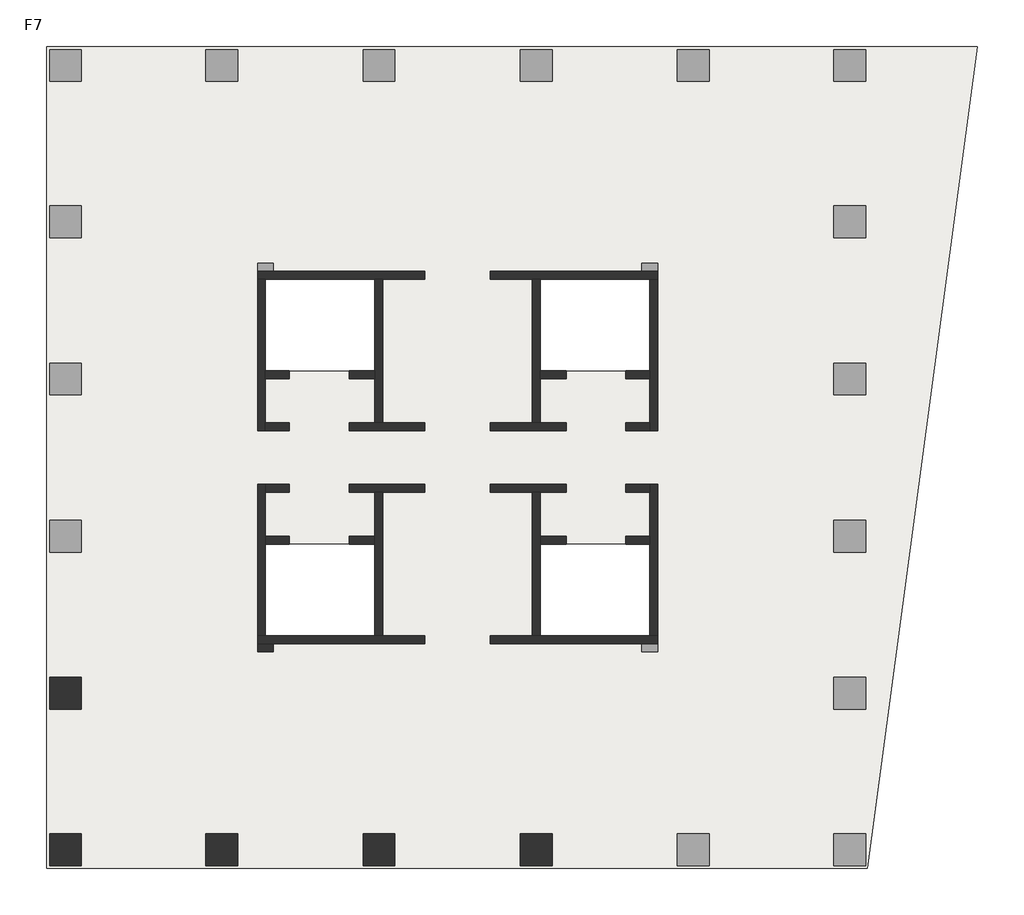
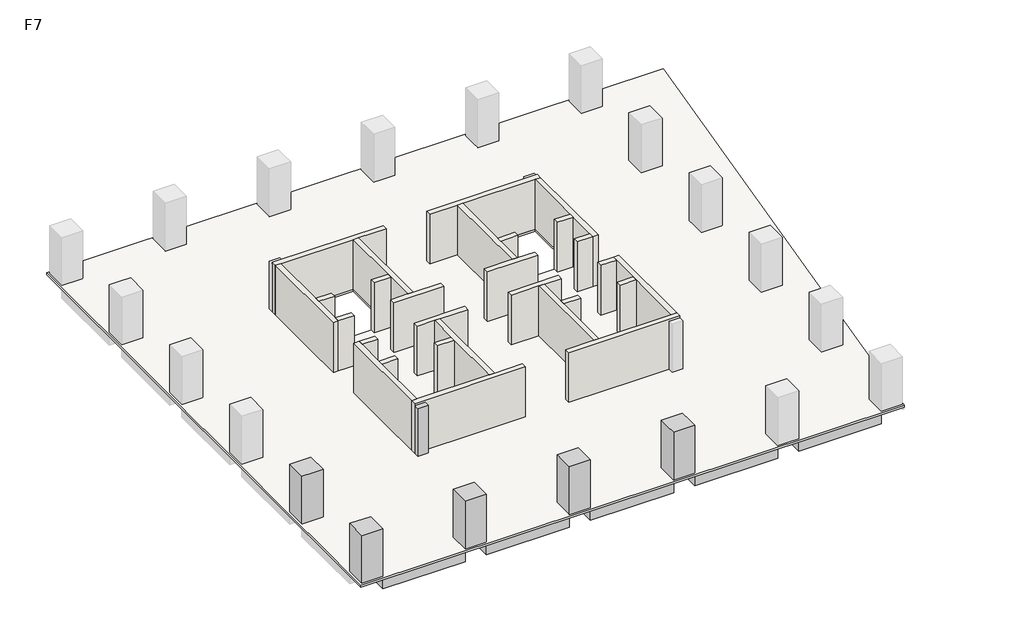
# One storey, part 1 of 2: 28 walls, 6 columns, 5 beams, 1 slab.
"""IFC4 building model written with IfcOpenShell, lengths in millimetres."""

from ifc_helpers import new_model, si_unit, frame, origin, place, context, project, spatial, polyline, outline, extrude, faceted_brep, element, save

model = new_model("IFC4")

# Units and contexts
model_context = context("Model", 3, world=origin())
ifc_project = project(units=[si_unit("LENGTHUNIT", "METRE", prefix="MILLI")], contexts=[model_context])

# Site, building, storey
site = spatial("IfcSite", under=ifc_project)
building = spatial("IfcBuilding", under=site)
storey = spatial("IfcBuildingStorey", under=building, Name="F7", Elevation=28000.0)

# Beams
placement = place(None, origin())
element("IfcBeam", 1, ObjectType="混凝土 - 矩形梁 : KL(5)-800x1000", at=placement, inside=storey, context=model_context, shape_type="SweptSolid", body=[
    extrude(outline(polyline([(-12472.6742169, -13948.9501342), (-12472.6742169, -13148.9501342), (-6222.6742169, -13148.9501342), (-6222.6742169, -13948.9501342), (-12472.6742169, -13948.9501342)])), frame((0.0, 0.0, 27000.0), z_axis=(0.0, 0.0, 1.0), x_axis=(1.0, 0.0, 0.0)), (0.0, 0.0, 1.0), 840.0),
    extrude(outline(polyline([(25327.3257831, -13148.9501342), (25327.3257831, -13948.9501342), (19077.3257831, -13948.9501342), (19077.3257831, -13148.9501342), (25327.3257831, -13148.9501342)])), frame((0.0, 0.0, 27000.0), z_axis=(0.0, 0.0, 1.0), x_axis=(1.0, 0.0, 0.0)), (0.0, 0.0, 1.0), 840.0),
    extrude(outline(polyline([(-4622.6742169, -13948.9501342), (-4622.6742169, -13148.9501342), (1677.3257831, -13148.9501342), (1677.3257831, -13948.9501342), (-4622.6742169, -13948.9501342)])), frame((0.0, 0.0, 27000.0), z_axis=(0.0, 0.0, 1.0), x_axis=(1.0, 0.0, 0.0)), (0.0, 0.0, 1.0), 840.0),
    extrude(outline(polyline([(3277.3257831, -13948.9501342), (3277.3257831, -13148.9501342), (9577.3257831, -13148.9501342), (9577.3257831, -13948.9501342), (3277.3257831, -13948.9501342)])), frame((0.0, 0.0, 27000.0), z_axis=(0.0, 0.0, 1.0), x_axis=(1.0, 0.0, 0.0)), (0.0, 0.0, 1.0), 840.0),
    extrude(outline(polyline([(11177.3257831, -13948.9501342), (11177.3257831, -13148.9501342), (17477.3257831, -13148.9501342), (17477.3257831, -13948.9501342), (11177.3257831, -13948.9501342)])), frame((0.0, 0.0, 27000.0), z_axis=(0.0, 0.0, 1.0), x_axis=(1.0, 0.0, 0.0)), (0.0, 0.0, 1.0), 840.0),
])
element("IfcBeam", 2, ObjectType="混凝土 - 矩形梁 : L1-800x500", at=placement, inside=storey, context=model_context, shape_type="Brep", body=[
    faceted_brep([(-12472.6742169, -5512.1353397, 27500.0), (-3746.9473979, -3341.556529, 27500.0), (-3173.6696907, -3198.9501342, 27500.0), (-3173.6696907, -3198.9501342, 27840.0), (-3746.9473979, -3341.556529, 27840.0), (-12472.6742169, -5512.1353397, 27840.0), (-3622.6742169, -3198.9501342, 27500.0), (-12472.6742169, -4687.7549784, 27500.0), (-3622.6742169, -2486.2624411, 27500.0), (-3622.6742169, -2798.9501342, 27500.0), (-12472.6742169, -4687.7549784, 27840.0), (-3622.6742169, -2486.2624411, 27840.0), (-3622.6742169, -3198.9501342, 27840.0)], [[[0, 1, 2, 3, 4, 5]], [[6, 2, 1, 0, 7, 8, 9]], [[8, 7, 10, 11]], [[2, 6, 12, 3]], [[9, 8, 11, 12, 6]], [[7, 0, 5, 10]], [[5, 4, 3, 12, 11, 10]]]),
])
element("IfcBeam", 3, ObjectType="混凝土 - 矩形梁 : L1-800x500", at=placement, inside=storey, context=model_context, shape_type="SweptSolid", body=[
    extrude(outline(polyline([(-3746.9473979, -3341.556529), (-3173.6696907, -3198.9501342), (-2898.7618154, -3198.9501342), (-4843.6893517, -12348.9501342), (-5661.5624638, -12348.9501342), (-3746.9473979, -3341.556529)])), frame((0.0, 0.0, 27500.0), z_axis=(0.0, 0.0, 1.0), x_axis=(1.0, 0.0, 0.0)), (0.0, 0.0, 1.0), 340.0),
])
element("IfcBeam", 4, ObjectType="混凝土 - 矩形梁 : L1-800x500", at=placement, inside=storey, context=model_context, shape_type="SweptSolid", body=[
    extrude(outline(polyline([(2877.3257831, -12348.9501342), (2077.3257831, -12348.9501342), (2077.3257831, -2798.9501342), (2877.3257831, -2798.9501342), (2877.3257831, -12348.9501342)])), frame((0.0, 0.0, 27500.0), z_axis=(0.0, 0.0, 1.0), x_axis=(1.0, 0.0, 0.0)), (0.0, 0.0, 1.0), 340.0),
])
element("IfcBeam", 5, ObjectType="混凝土 - 矩形梁 : L1-800x500", at=placement, inside=storey, context=model_context, shape_type="SweptSolid", body=[
    extrude(outline(polyline([(10777.3257831, -12348.9501342), (9977.3257831, -12348.9501342), (9977.3257831, -2798.9501342), (10777.3257831, -2798.9501342), (10777.3257831, -12348.9501342)])), frame((0.0, 0.0, 27500.0), z_axis=(0.0, 0.0, 1.0), x_axis=(1.0, 0.0, 0.0)), (0.0, 0.0, 1.0), 340.0),
])

# Columns
element("IfcColumn", 6, ObjectType="混凝土 - 矩形 - 柱 : Z1-1600x1600", at=placement, inside=storey, context=model_context, shape_type="Brep", body=[
    faceted_brep([(-12472.6742169, -4498.9501342, 28000.0), (-12472.6742169, -6098.9501342, 28000.0), (-14072.6742169, -6098.9501342, 28000.0), (-14072.6742169, -4498.9501342, 28000.0), (-12472.6742169, -4498.9501342, 31840.0), (-12472.6742169, -6098.9501342, 31840.0), (-13272.6742169, -6098.9501342, 31840.0), (-14072.6742169, -6098.9501342, 31840.0), (-14072.6742169, -6098.9501342, 31000.0), (-14072.6742169, -4498.9501342, 31840.0), (-14072.6742169, -4498.9501342, 31000.0), (-13272.6742169, -4498.9501342, 31840.0)], [[[0, 1, 2, 3]], [[1, 0, 4, 5]], [[2, 1, 5, 6, 7, 8]], [[3, 2, 8, 7, 9, 10]], [[0, 3, 10, 9, 11, 4]], [[5, 4, 11, 9, 7, 6]]]),
])
element("IfcColumn", 7, ObjectType="混凝土 - 矩形 - 柱 : Z1-1600x1600", at=placement, inside=storey, context=model_context, shape_type="SweptSolid", body=[
    extrude(outline(polyline([(-12472.6742169, -12348.9501342), (-12472.6742169, -13948.9501342), (-14072.6742169, -13948.9501342), (-14072.6742169, -12348.9501342), (-12472.6742169, -12348.9501342)])), frame((0.0, 0.0, 28000.0), z_axis=(0.0, 0.0, 1.0), x_axis=(1.0, 0.0, 0.0)), (0.0, 0.0, 1.0), 3840.0),
])
element("IfcColumn", 8, ObjectType="混凝土 - 矩形 - 柱 : Z1-1600x1600", at=placement, inside=storey, context=model_context, shape_type="Brep", body=[
    faceted_brep([(-4622.6742169, -12348.9501342, 28000.0), (-4622.6742169, -13948.9501342, 28000.0), (-6222.6742169, -13948.9501342, 28000.0), (-6222.6742169, -12348.9501342, 28000.0), (-4622.6742169, -12348.9501342, 31840.0), (-4622.6742169, -13148.9501342, 31840.0), (-4622.6742169, -13948.9501342, 31840.0), (-4622.6742169, -13948.9501342, 31000.0), (-6222.6742169, -13948.9501342, 31840.0), (-6222.6742169, -13948.9501342, 31000.0), (-6222.6742169, -13148.9501342, 31840.0), (-6222.6742169, -12348.9501342, 31840.0)], [[[0, 1, 2, 3]], [[1, 0, 4, 5, 6, 7]], [[2, 1, 7, 6, 8, 9]], [[3, 2, 9, 8, 10, 11]], [[0, 3, 11, 4]], [[6, 5, 4, 11, 10, 8]]]),
])
element("IfcColumn", 9, ObjectType="混凝土 - 矩形 - 柱 : Z1-1600x1600", at=placement, inside=storey, context=model_context, shape_type="Brep", body=[
    faceted_brep([(3277.3257831, -12348.9501342, 28000.0), (3277.3257831, -13948.9501342, 28000.0), (1677.3257831, -13948.9501342, 28000.0), (1677.3257831, -12348.9501342, 28000.0), (3277.3257831, -12348.9501342, 31840.0), (3277.3257831, -13148.9501342, 31840.0), (3277.3257831, -13948.9501342, 31840.0), (3277.3257831, -13948.9501342, 31000.0), (1677.3257831, -13948.9501342, 31840.0), (1677.3257831, -13948.9501342, 31000.0), (1677.3257831, -13148.9501342, 31840.0), (1677.3257831, -12348.9501342, 31840.0)], [[[0, 1, 2, 3]], [[1, 0, 4, 5, 6, 7]], [[2, 1, 7, 6, 8, 9]], [[3, 2, 9, 8, 10, 11]], [[0, 3, 11, 4]], [[6, 5, 4, 11, 10, 8]]]),
])
element("IfcColumn", 10, ObjectType="混凝土 - 矩形 - 柱 : Z1-1600x1600", at=placement, inside=storey, context=model_context, shape_type="Brep", body=[
    faceted_brep([(11177.3257831, -12348.9501342, 28000.0), (11177.3257831, -13948.9501342, 28000.0), (9577.3257831, -13948.9501342, 28000.0), (9577.3257831, -12348.9501342, 28000.0), (11177.3257831, -12348.9501342, 31840.0), (11177.3257831, -13148.9501342, 31840.0), (11177.3257831, -13948.9501342, 31840.0), (11177.3257831, -13948.9501342, 31000.0), (9577.3257831, -13948.9501342, 31840.0), (9577.3257831, -13948.9501342, 31000.0), (9577.3257831, -13148.9501342, 31840.0), (9577.3257831, -12348.9501342, 31840.0)], [[[0, 1, 2, 3]], [[1, 0, 4, 5, 6, 7]], [[2, 1, 7, 6, 8, 9]], [[3, 2, 9, 8, 10, 11]], [[0, 3, 11, 4]], [[6, 5, 4, 11, 10, 8]]]),
])
element("IfcColumn", 11, ObjectType="混凝土 - 矩形 - 柱 : Z2-800x800", at=placement, inside=storey, context=model_context, shape_type="SweptSolid", body=[
    extrude(outline(polyline([(-2822.6742169, -3198.9501342), (-3622.6742169, -3198.9501342), (-3622.6742169, -2798.9501342), (-2822.6742169, -2798.9501342), (-2822.6742169, -3198.9501342)])), frame((0.0, 0.0, 28000.0), z_axis=(0.0, 0.0, 1.0), x_axis=(1.0, 0.0, 0.0)), (0.0, 0.0, 1.0), 3840.0),
])

# Slab
element("IfcSlab", 12, ObjectType="LB-160", at=placement, inside=storey, context=model_context, shape_type="Brep", body=[
    faceted_brep([(32549.4477343, 27201.0498658, 27840.0), (32422.0087099, 26251.0498658, 27840.0), (27029.3257831, -13948.9501342, 27840.0), (27011.0393465, -14085.2672073, 27840.0), (-14222.6742169, -14085.2672073, 27840.0), (-14222.6742169, 27201.0498658, 27840.0), (2277.3257831, 15501.0498658, 27840.0), (-3222.6742169, 15501.0498658, 27840.0), (-3222.6742169, 10901.0498658, 27840.0), (2277.3257831, 10901.0498658, 27840.0), (2277.3257831, 2201.0498658, 27840.0), (-3222.6742169, 2201.0498658, 27840.0), (-3222.6742169, -2398.9501342, 27840.0), (2277.3257831, -2398.9501342, 27840.0), (16077.3257831, 2201.0498658, 27840.0), (10577.3257831, 2201.0498658, 27840.0), (10577.3257831, -2398.9501342, 27840.0), (16077.3257831, -2398.9501342, 27840.0), (16077.3257831, 15501.0498658, 27840.0), (10577.3257831, 15501.0498658, 27840.0), (10577.3257831, 10901.0498658, 27840.0), (16077.3257831, 10901.0498658, 27840.0), (32549.4477343, 27201.0498658, 28000.0), (-14222.6742169, 27201.0498658, 28000.0), (-14222.6742169, -14085.2672073, 28000.0), (27011.0393465, -14085.2672073, 28000.0), (2277.3257831, 15501.0498658, 28000.0), (2277.3257831, 10901.0498658, 28000.0), (-3222.6742169, 10901.0498658, 28000.0), (-3222.6742169, 15501.0498658, 28000.0), (2277.3257831, 2201.0498658, 28000.0), (2277.3257831, -2398.9501342, 28000.0), (-3222.6742169, -2398.9501342, 28000.0), (-3222.6742169, 2201.0498658, 28000.0), (16077.3257831, 2201.0498658, 28000.0), (16077.3257831, -2398.9501342, 28000.0), (10577.3257831, -2398.9501342, 28000.0), (10577.3257831, 2201.0498658, 28000.0), (16077.3257831, 15501.0498658, 28000.0), (16077.3257831, 10901.0498658, 28000.0), (10577.3257831, 10901.0498658, 28000.0), (10577.3257831, 15501.0498658, 28000.0)], [[[0, 1, 2, 3, 4, 5], [6, 7, 8, 9], [10, 11, 12, 13], [14, 15, 16, 17], [18, 19, 20, 21]], [[22, 23, 24, 25], [26, 27, 28, 29], [30, 31, 32, 33], [34, 35, 36, 37], [38, 39, 40, 41]], [[3, 2, 1, 0, 22, 25]], [[4, 3, 25, 24]], [[5, 4, 24, 23]], [[0, 5, 23, 22]], [[7, 6, 26, 29]], [[8, 7, 29, 28]], [[9, 8, 28, 27]], [[6, 9, 27, 26]], [[11, 10, 30, 33]], [[12, 11, 33, 32]], [[13, 12, 32, 31]], [[10, 13, 31, 30]], [[15, 14, 34, 37]], [[16, 15, 37, 36]], [[17, 16, 36, 35]], [[14, 17, 35, 34]], [[19, 18, 38, 41]], [[20, 19, 41, 40]], [[21, 20, 40, 39]], [[18, 21, 39, 38]]]),
])

# Walls
element("IfcWall", 13, ObjectType="剪力墙-400", at=placement, inside=storey, context=model_context, shape_type="Brep", body=[
    faceted_brep([(-3622.6742169, 15501.0498658, 28000.0), (-3222.6742169, 15501.0498658, 28000.0), (2277.3257831, 15501.0498658, 28000.0), (2677.3257831, 15501.0498658, 28000.0), (4777.3257831, 15501.0498658, 28000.0), (4777.3257831, 15501.0498658, 32000.0), (2677.3257831, 15501.0498658, 32000.0), (2277.3257831, 15501.0498658, 32000.0), (-3222.6742169, 15501.0498658, 32000.0), (-3622.6742169, 15501.0498658, 32000.0), (-3622.6742169, 15901.0498658, 28000.0), (-3622.6742169, 15901.0498658, 31840.0), (-3622.6742169, 15901.0498658, 32000.0), (4777.3257831, 15901.0498658, 32000.0), (4777.3257831, 15901.0498658, 28000.0), (-2822.6742169, 15901.0498658, 28000.0)], [[[0, 1, 2, 3, 4, 5, 6, 7, 8, 9]], [[10, 11, 12, 13, 14, 15]], [[4, 3, 2, 1, 0, 10, 15, 14]], [[5, 4, 14, 13]], [[9, 8, 7, 6, 5, 13, 12]], [[0, 9, 12, 11, 10]]]),
])
element("IfcWall", 14, ObjectType="剪力墙-400", at=placement, inside=storey, context=model_context, shape_type="Brep", body=[
    faceted_brep([(2277.3257831, 15501.0498658, 28000.0), (2277.3257831, 10901.0498658, 28000.0), (2277.3257831, 10501.0498658, 28000.0), (2277.3257831, 8301.0498658, 28000.0), (2277.3257831, 8301.0498658, 32000.0), (2277.3257831, 10501.0498658, 32000.0), (2277.3257831, 10901.0498658, 32000.0), (2277.3257831, 15501.0498658, 32000.0), (2677.3257831, 15501.0498658, 28000.0), (2677.3257831, 15501.0498658, 32000.0), (2677.3257831, 8301.0498658, 32000.0), (2677.3257831, 8301.0498658, 28000.0)], [[[0, 1, 2, 3, 4, 5, 6, 7]], [[8, 9, 10, 11]], [[3, 2, 1, 0, 8, 11]], [[7, 6, 5, 4, 10, 9]], [[0, 7, 9, 8]], [[4, 3, 11, 10]]]),
])
element("IfcWall", 15, ObjectType="剪力墙-400", at=placement, inside=storey, context=model_context, shape_type="Brep", body=[
    faceted_brep([(-3622.6742169, 15501.0498658, 28000.0), (-3622.6742169, 7901.0498658, 28000.0), (-3622.6742169, 7901.0498658, 32000.0), (-3622.6742169, 15501.0498658, 32000.0), (-3222.6742169, 15501.0498658, 28000.0), (-3222.6742169, 15501.0498658, 32000.0), (-3222.6742169, 10901.0498658, 32000.0), (-3222.6742169, 10501.0498658, 32000.0), (-3222.6742169, 8301.0498658, 32000.0), (-3222.6742169, 7901.0498658, 32000.0), (-3222.6742169, 7901.0498658, 28000.0), (-3222.6742169, 8301.0498658, 28000.0), (-3222.6742169, 10501.0498658, 28000.0), (-3222.6742169, 10901.0498658, 28000.0)], [[[0, 1, 2, 3]], [[4, 5, 6, 7, 8, 9, 10, 11, 12, 13]], [[1, 0, 4, 13, 12, 11, 10]], [[3, 2, 9, 8, 7, 6, 5]], [[0, 3, 5, 4]], [[2, 1, 10, 9]]]),
])
element("IfcWall", 16, ObjectType="剪力墙-400", at=placement, inside=storey, context=model_context, shape_type="SweptSolid", body=[
    extrude(outline(polyline([(-2022.6742169, 7901.0498658), (-3222.6742169, 7901.0498658), (-3222.6742169, 8301.0498658), (-2022.6742169, 8301.0498658), (-2022.6742169, 7901.0498658)])), frame((0.0, 0.0, 28000.0), z_axis=(0.0, 0.0, 1.0), x_axis=(1.0, 0.0, 0.0)), (0.0, 0.0, 1.0), 4000.0),
])
element("IfcWall", 17, ObjectType="剪力墙-400", at=placement, inside=storey, context=model_context, shape_type="Brep", body=[
    faceted_brep([(977.3257831, 7901.0498658, 28000.0), (4777.3257831, 7901.0498658, 28000.0), (4777.3257831, 7901.0498658, 32000.0), (977.3257831, 7901.0498658, 32000.0), (977.3257831, 8301.0498658, 28000.0), (977.3257831, 8301.0498658, 32000.0), (2277.3257831, 8301.0498658, 32000.0), (2677.3257831, 8301.0498658, 32000.0), (4777.3257831, 8301.0498658, 32000.0), (4777.3257831, 8301.0498658, 28000.0), (2677.3257831, 8301.0498658, 28000.0), (2277.3257831, 8301.0498658, 28000.0)], [[[0, 1, 2, 3]], [[4, 5, 6, 7, 8, 9, 10, 11]], [[1, 0, 4, 11, 10, 9]], [[2, 1, 9, 8]], [[3, 2, 8, 7, 6, 5]], [[0, 3, 5, 4]]]),
])
element("IfcWall", 18, ObjectType="剪力墙-400", at=placement, inside=storey, context=model_context, shape_type="SweptSolid", body=[
    extrude(outline(polyline([(-2022.6742169, 10501.0498658), (-3222.6742169, 10501.0498658), (-3222.6742169, 10901.0498658), (-2022.6742169, 10901.0498658), (-2022.6742169, 10501.0498658)])), frame((0.0, 0.0, 28000.0), z_axis=(0.0, 0.0, 1.0), x_axis=(1.0, 0.0, 0.0)), (0.0, 0.0, 1.0), 4000.0),
])
element("IfcWall", 19, ObjectType="剪力墙-400", at=placement, inside=storey, context=model_context, shape_type="SweptSolid", body=[
    extrude(outline(polyline([(2277.3257831, 10501.0498658), (977.3257831, 10501.0498658), (977.3257831, 10901.0498658), (2277.3257831, 10901.0498658), (2277.3257831, 10501.0498658)])), frame((0.0, 0.0, 28000.0), z_axis=(0.0, 0.0, 1.0), x_axis=(1.0, 0.0, 0.0)), (0.0, 0.0, 1.0), 4000.0),
])
element("IfcWall", 20, ObjectType="剪力墙-400", at=placement, inside=storey, context=model_context, shape_type="Brep", body=[
    faceted_brep([(16477.3257831, 15901.0498658, 28000.0), (15677.3257831, 15901.0498658, 28000.0), (8077.3257831, 15901.0498658, 28000.0), (8077.3257831, 15901.0498658, 32000.0), (16477.3257831, 15901.0498658, 32000.0), (16477.3257831, 15901.0498658, 31840.0), (16477.3257831, 15501.0498658, 28000.0), (16477.3257831, 15501.0498658, 32000.0), (16077.3257831, 15501.0498658, 32000.0), (10577.3257831, 15501.0498658, 32000.0), (10177.3257831, 15501.0498658, 32000.0), (8077.3257831, 15501.0498658, 32000.0), (8077.3257831, 15501.0498658, 28000.0), (10177.3257831, 15501.0498658, 28000.0), (10577.3257831, 15501.0498658, 28000.0), (16077.3257831, 15501.0498658, 28000.0)], [[[0, 1, 2, 3, 4, 5]], [[6, 7, 8, 9, 10, 11, 12, 13, 14, 15]], [[2, 1, 0, 6, 15, 14, 13, 12]], [[3, 2, 12, 11]], [[4, 3, 11, 10, 9, 8, 7]], [[0, 5, 4, 7, 6]]]),
])
element("IfcWall", 21, ObjectType="剪力墙-400", at=placement, inside=storey, context=model_context, shape_type="Brep", body=[
    faceted_brep([(10177.3257831, 15501.0498658, 28000.0), (10177.3257831, 8301.0498658, 28000.0), (10177.3257831, 8301.0498658, 32000.0), (10177.3257831, 15501.0498658, 32000.0), (10577.3257831, 15501.0498658, 28000.0), (10577.3257831, 15501.0498658, 32000.0), (10577.3257831, 10901.0498658, 32000.0), (10577.3257831, 10501.0498658, 32000.0), (10577.3257831, 8301.0498658, 32000.0), (10577.3257831, 8301.0498658, 28000.0), (10577.3257831, 10501.0498658, 28000.0), (10577.3257831, 10901.0498658, 28000.0)], [[[0, 1, 2, 3]], [[4, 5, 6, 7, 8, 9, 10, 11]], [[1, 0, 4, 11, 10, 9]], [[3, 2, 8, 7, 6, 5]], [[0, 3, 5, 4]], [[2, 1, 9, 8]]]),
])
element("IfcWall", 22, ObjectType="剪力墙-400", at=placement, inside=storey, context=model_context, shape_type="Brep", body=[
    faceted_brep([(16077.3257831, 15501.0498658, 28000.0), (16077.3257831, 10901.0498658, 28000.0), (16077.3257831, 10501.0498658, 28000.0), (16077.3257831, 8301.0498658, 28000.0), (16077.3257831, 7901.0498658, 28000.0), (16077.3257831, 7901.0498658, 32000.0), (16077.3257831, 8301.0498658, 32000.0), (16077.3257831, 10501.0498658, 32000.0), (16077.3257831, 10901.0498658, 32000.0), (16077.3257831, 15501.0498658, 32000.0), (16477.3257831, 15501.0498658, 28000.0), (16477.3257831, 15501.0498658, 32000.0), (16477.3257831, 7901.0498658, 32000.0), (16477.3257831, 7901.0498658, 28000.0)], [[[0, 1, 2, 3, 4, 5, 6, 7, 8, 9]], [[10, 11, 12, 13]], [[4, 3, 2, 1, 0, 10, 13]], [[9, 8, 7, 6, 5, 12, 11]], [[0, 9, 11, 10]], [[5, 4, 13, 12]]]),
])
element("IfcWall", 23, ObjectType="剪力墙-400", at=placement, inside=storey, context=model_context, shape_type="SweptSolid", body=[
    extrude(outline(polyline([(14877.3257831, 8301.0498658), (16077.3257831, 8301.0498658), (16077.3257831, 7901.0498658), (14877.3257831, 7901.0498658), (14877.3257831, 8301.0498658)])), frame((0.0, 0.0, 28000.0), z_axis=(0.0, 0.0, 1.0), x_axis=(1.0, 0.0, 0.0)), (0.0, 0.0, 1.0), 4000.0),
])
element("IfcWall", 24, ObjectType="剪力墙-400", at=placement, inside=storey, context=model_context, shape_type="Brep", body=[
    faceted_brep([(11877.3257831, 8301.0498658, 28000.0), (10577.3257831, 8301.0498658, 28000.0), (10177.3257831, 8301.0498658, 28000.0), (8077.3257831, 8301.0498658, 28000.0), (8077.3257831, 8301.0498658, 32000.0), (10177.3257831, 8301.0498658, 32000.0), (10577.3257831, 8301.0498658, 32000.0), (11877.3257831, 8301.0498658, 32000.0), (11877.3257831, 7901.0498658, 28000.0), (11877.3257831, 7901.0498658, 32000.0), (8077.3257831, 7901.0498658, 32000.0), (8077.3257831, 7901.0498658, 28000.0)], [[[0, 1, 2, 3, 4, 5, 6, 7]], [[8, 9, 10, 11]], [[3, 2, 1, 0, 8, 11]], [[4, 3, 11, 10]], [[7, 6, 5, 4, 10, 9]], [[0, 7, 9, 8]]]),
])
element("IfcWall", 25, ObjectType="剪力墙-400", at=placement, inside=storey, context=model_context, shape_type="SweptSolid", body=[
    extrude(outline(polyline([(14877.3257831, 10901.0498658), (16077.3257831, 10901.0498658), (16077.3257831, 10501.0498658), (14877.3257831, 10501.0498658), (14877.3257831, 10901.0498658)])), frame((0.0, 0.0, 28000.0), z_axis=(0.0, 0.0, 1.0), x_axis=(1.0, 0.0, 0.0)), (0.0, 0.0, 1.0), 4000.0),
])
element("IfcWall", 26, ObjectType="剪力墙-400", at=placement, inside=storey, context=model_context, shape_type="SweptSolid", body=[
    extrude(outline(polyline([(10577.3257831, 10901.0498658), (11877.3257831, 10901.0498658), (11877.3257831, 10501.0498658), (10577.3257831, 10501.0498658), (10577.3257831, 10901.0498658)])), frame((0.0, 0.0, 28000.0), z_axis=(0.0, 0.0, 1.0), x_axis=(1.0, 0.0, 0.0)), (0.0, 0.0, 1.0), 4000.0),
])
element("IfcWall", 27, ObjectType="剪力墙-400", at=placement, inside=storey, context=model_context, shape_type="Brep", body=[
    faceted_brep([(-3622.6742169, -2798.9501342, 28000.0), (-2822.6742169, -2798.9501342, 28000.0), (4777.3257831, -2798.9501342, 28000.0), (4777.3257831, -2798.9501342, 32000.0), (-3622.6742169, -2798.9501342, 32000.0), (-3622.6742169, -2798.9501342, 31840.0), (-3622.6742169, -2398.9501342, 28000.0), (-3622.6742169, -2398.9501342, 32000.0), (-3222.6742169, -2398.9501342, 32000.0), (2277.3257831, -2398.9501342, 32000.0), (2677.3257831, -2398.9501342, 32000.0), (4777.3257831, -2398.9501342, 32000.0), (4777.3257831, -2398.9501342, 28000.0), (2677.3257831, -2398.9501342, 28000.0), (2277.3257831, -2398.9501342, 28000.0), (-3222.6742169, -2398.9501342, 28000.0)], [[[0, 1, 2, 3, 4, 5]], [[6, 7, 8, 9, 10, 11, 12, 13, 14, 15]], [[2, 1, 0, 6, 15, 14, 13, 12]], [[3, 2, 12, 11]], [[4, 3, 11, 10, 9, 8, 7]], [[0, 5, 4, 7, 6]]]),
])
element("IfcWall", 28, ObjectType="剪力墙-400", at=placement, inside=storey, context=model_context, shape_type="Brep", body=[
    faceted_brep([(2677.3257831, -2398.9501342, 28000.0), (2677.3257831, 4801.0498658, 28000.0), (2677.3257831, 4801.0498658, 32000.0), (2677.3257831, -2398.9501342, 32000.0), (2277.3257831, -2398.9501342, 28000.0), (2277.3257831, -2398.9501342, 32000.0), (2277.3257831, 2201.0498658, 32000.0), (2277.3257831, 2601.0498658, 32000.0), (2277.3257831, 4801.0498658, 32000.0), (2277.3257831, 4801.0498658, 28000.0), (2277.3257831, 2601.0498658, 28000.0), (2277.3257831, 2201.0498658, 28000.0)], [[[0, 1, 2, 3]], [[4, 5, 6, 7, 8, 9, 10, 11]], [[1, 0, 4, 11, 10, 9]], [[3, 2, 8, 7, 6, 5]], [[0, 3, 5, 4]], [[2, 1, 9, 8]]]),
])
element("IfcWall", 29, ObjectType="剪力墙-400", at=placement, inside=storey, context=model_context, shape_type="Brep", body=[
    faceted_brep([(-3222.6742169, -2398.9501342, 28000.0), (-3222.6742169, 2201.0498658, 28000.0), (-3222.6742169, 2601.0498658, 28000.0), (-3222.6742169, 4801.0498658, 28000.0), (-3222.6742169, 5201.0498658, 28000.0), (-3222.6742169, 5201.0498658, 32000.0), (-3222.6742169, 4801.0498658, 32000.0), (-3222.6742169, 2601.0498658, 32000.0), (-3222.6742169, 2201.0498658, 32000.0), (-3222.6742169, -2398.9501342, 32000.0), (-3622.6742169, -2398.9501342, 28000.0), (-3622.6742169, -2398.9501342, 32000.0), (-3622.6742169, 5201.0498658, 32000.0), (-3622.6742169, 5201.0498658, 28000.0)], [[[0, 1, 2, 3, 4, 5, 6, 7, 8, 9]], [[10, 11, 12, 13]], [[4, 3, 2, 1, 0, 10, 13]], [[9, 8, 7, 6, 5, 12, 11]], [[0, 9, 11, 10]], [[5, 4, 13, 12]]]),
])
element("IfcWall", 30, ObjectType="剪力墙-400", at=placement, inside=storey, context=model_context, shape_type="SweptSolid", body=[
    extrude(outline(polyline([(-2022.6742169, 4801.0498658), (-3222.6742169, 4801.0498658), (-3222.6742169, 5201.0498658), (-2022.6742169, 5201.0498658), (-2022.6742169, 4801.0498658)])), frame((0.0, 0.0, 28000.0), z_axis=(0.0, 0.0, 1.0), x_axis=(1.0, 0.0, 0.0)), (0.0, 0.0, 1.0), 4000.0),
])
element("IfcWall", 31, ObjectType="剪力墙-400", at=placement, inside=storey, context=model_context, shape_type="Brep", body=[
    faceted_brep([(977.3257831, 4801.0498658, 28000.0), (2277.3257831, 4801.0498658, 28000.0), (2677.3257831, 4801.0498658, 28000.0), (4777.3257831, 4801.0498658, 28000.0), (4777.3257831, 4801.0498658, 32000.0), (2677.3257831, 4801.0498658, 32000.0), (2277.3257831, 4801.0498658, 32000.0), (977.3257831, 4801.0498658, 32000.0), (977.3257831, 5201.0498658, 28000.0), (977.3257831, 5201.0498658, 32000.0), (4777.3257831, 5201.0498658, 32000.0), (4777.3257831, 5201.0498658, 28000.0)], [[[0, 1, 2, 3, 4, 5, 6, 7]], [[8, 9, 10, 11]], [[3, 2, 1, 0, 8, 11]], [[4, 3, 11, 10]], [[7, 6, 5, 4, 10, 9]], [[0, 7, 9, 8]]]),
])
element("IfcWall", 32, ObjectType="剪力墙-400", at=placement, inside=storey, context=model_context, shape_type="SweptSolid", body=[
    extrude(outline(polyline([(-2022.6742169, 2201.0498658), (-3222.6742169, 2201.0498658), (-3222.6742169, 2601.0498658), (-2022.6742169, 2601.0498658), (-2022.6742169, 2201.0498658)])), frame((0.0, 0.0, 28000.0), z_axis=(0.0, 0.0, 1.0), x_axis=(1.0, 0.0, 0.0)), (0.0, 0.0, 1.0), 4000.0),
])
element("IfcWall", 33, ObjectType="剪力墙-400", at=placement, inside=storey, context=model_context, shape_type="SweptSolid", body=[
    extrude(outline(polyline([(2277.3257831, 2201.0498658), (977.3257831, 2201.0498658), (977.3257831, 2601.0498658), (2277.3257831, 2601.0498658), (2277.3257831, 2201.0498658)])), frame((0.0, 0.0, 28000.0), z_axis=(0.0, 0.0, 1.0), x_axis=(1.0, 0.0, 0.0)), (0.0, 0.0, 1.0), 4000.0),
])
element("IfcWall", 34, ObjectType="剪力墙-400", at=placement, inside=storey, context=model_context, shape_type="Brep", body=[
    faceted_brep([(16477.3257831, -2398.9501342, 28000.0), (16077.3257831, -2398.9501342, 28000.0), (10577.3257831, -2398.9501342, 28000.0), (10177.3257831, -2398.9501342, 28000.0), (8077.3257831, -2398.9501342, 28000.0), (8077.3257831, -2398.9501342, 32000.0), (10177.3257831, -2398.9501342, 32000.0), (10577.3257831, -2398.9501342, 32000.0), (16077.3257831, -2398.9501342, 32000.0), (16477.3257831, -2398.9501342, 32000.0), (16477.3257831, -2798.9501342, 28000.0), (16477.3257831, -2798.9501342, 31840.0), (16477.3257831, -2798.9501342, 32000.0), (8077.3257831, -2798.9501342, 32000.0), (8077.3257831, -2798.9501342, 28000.0), (15677.3257831, -2798.9501342, 28000.0)], [[[0, 1, 2, 3, 4, 5, 6, 7, 8, 9]], [[10, 11, 12, 13, 14, 15]], [[4, 3, 2, 1, 0, 10, 15, 14]], [[5, 4, 14, 13]], [[9, 8, 7, 6, 5, 13, 12]], [[0, 9, 12, 11, 10]]]),
])
element("IfcWall", 35, ObjectType="剪力墙-400", at=placement, inside=storey, context=model_context, shape_type="Brep", body=[
    faceted_brep([(10577.3257831, -2398.9501342, 28000.0), (10577.3257831, 2201.0498658, 28000.0), (10577.3257831, 2601.0498658, 28000.0), (10577.3257831, 4801.0498658, 28000.0), (10577.3257831, 4801.0498658, 32000.0), (10577.3257831, 2601.0498658, 32000.0), (10577.3257831, 2201.0498658, 32000.0), (10577.3257831, -2398.9501342, 32000.0), (10177.3257831, -2398.9501342, 28000.0), (10177.3257831, -2398.9501342, 32000.0), (10177.3257831, 4801.0498658, 32000.0), (10177.3257831, 4801.0498658, 28000.0)], [[[0, 1, 2, 3, 4, 5, 6, 7]], [[8, 9, 10, 11]], [[3, 2, 1, 0, 8, 11]], [[7, 6, 5, 4, 10, 9]], [[0, 7, 9, 8]], [[4, 3, 11, 10]]]),
])
element("IfcWall", 36, ObjectType="剪力墙-400", at=placement, inside=storey, context=model_context, shape_type="Brep", body=[
    faceted_brep([(16477.3257831, -2398.9501342, 28000.0), (16477.3257831, 5201.0498658, 28000.0), (16477.3257831, 5201.0498658, 32000.0), (16477.3257831, -2398.9501342, 32000.0), (16077.3257831, -2398.9501342, 28000.0), (16077.3257831, -2398.9501342, 32000.0), (16077.3257831, 2201.0498658, 32000.0), (16077.3257831, 2601.0498658, 32000.0), (16077.3257831, 4801.0498658, 32000.0), (16077.3257831, 5201.0498658, 32000.0), (16077.3257831, 5201.0498658, 28000.0), (16077.3257831, 4801.0498658, 28000.0), (16077.3257831, 2601.0498658, 28000.0), (16077.3257831, 2201.0498658, 28000.0)], [[[0, 1, 2, 3]], [[4, 5, 6, 7, 8, 9, 10, 11, 12, 13]], [[1, 0, 4, 13, 12, 11, 10]], [[3, 2, 9, 8, 7, 6, 5]], [[0, 3, 5, 4]], [[2, 1, 10, 9]]]),
])
element("IfcWall", 37, ObjectType="剪力墙-400", at=placement, inside=storey, context=model_context, shape_type="SweptSolid", body=[
    extrude(outline(polyline([(14877.3257831, 5201.0498658), (16077.3257831, 5201.0498658), (16077.3257831, 4801.0498658), (14877.3257831, 4801.0498658), (14877.3257831, 5201.0498658)])), frame((0.0, 0.0, 28000.0), z_axis=(0.0, 0.0, 1.0), x_axis=(1.0, 0.0, 0.0)), (0.0, 0.0, 1.0), 4000.0),
])
element("IfcWall", 38, ObjectType="剪力墙-400", at=placement, inside=storey, context=model_context, shape_type="Brep", body=[
    faceted_brep([(11877.3257831, 5201.0498658, 28000.0), (8077.3257831, 5201.0498658, 28000.0), (8077.3257831, 5201.0498658, 32000.0), (11877.3257831, 5201.0498658, 32000.0), (11877.3257831, 4801.0498658, 28000.0), (11877.3257831, 4801.0498658, 32000.0), (10577.3257831, 4801.0498658, 32000.0), (10177.3257831, 4801.0498658, 32000.0), (8077.3257831, 4801.0498658, 32000.0), (8077.3257831, 4801.0498658, 28000.0), (10177.3257831, 4801.0498658, 28000.0), (10577.3257831, 4801.0498658, 28000.0)], [[[0, 1, 2, 3]], [[4, 5, 6, 7, 8, 9, 10, 11]], [[1, 0, 4, 11, 10, 9]], [[2, 1, 9, 8]], [[3, 2, 8, 7, 6, 5]], [[0, 3, 5, 4]]]),
])
element("IfcWall", 39, ObjectType="剪力墙-400", at=placement, inside=storey, context=model_context, shape_type="SweptSolid", body=[
    extrude(outline(polyline([(14877.3257831, 2601.0498658), (16077.3257831, 2601.0498658), (16077.3257831, 2201.0498658), (14877.3257831, 2201.0498658), (14877.3257831, 2601.0498658)])), frame((0.0, 0.0, 28000.0), z_axis=(0.0, 0.0, 1.0), x_axis=(1.0, 0.0, 0.0)), (0.0, 0.0, 1.0), 4000.0),
])
element("IfcWall", 40, ObjectType="剪力墙-400", at=placement, inside=storey, context=model_context, shape_type="SweptSolid", body=[
    extrude(outline(polyline([(10577.3257831, 2601.0498658), (11877.3257831, 2601.0498658), (11877.3257831, 2201.0498658), (10577.3257831, 2201.0498658), (10577.3257831, 2601.0498658)])), frame((0.0, 0.0, 28000.0), z_axis=(0.0, 0.0, 1.0), x_axis=(1.0, 0.0, 0.0)), (0.0, 0.0, 1.0), 4000.0),
])

save(model, "model.ifc")
